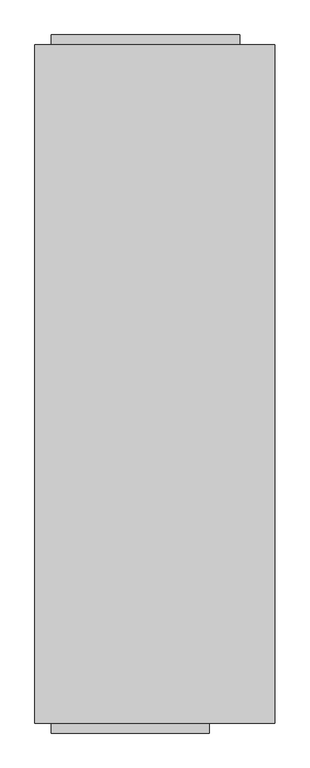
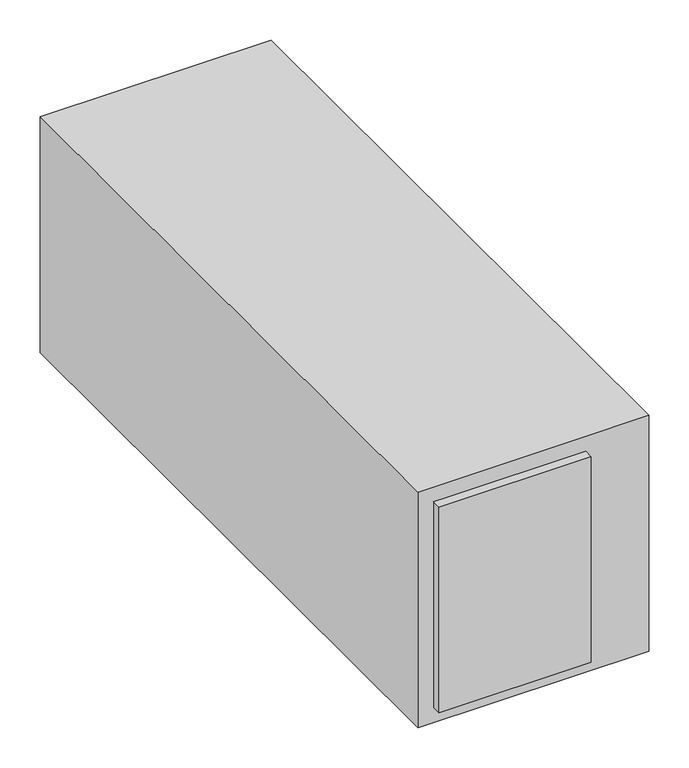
"""IFC4 building model written with IfcOpenShell, lengths in millimetres: proxy geometry, FC-4 & 5 : FC-4 & 5."""

from ifc_helpers import new_model, si_unit, frame, origin, origin_with_axes, place, context, project, spatial, polyline, outline, extrude, source, transform, mapped, element, save


def mechanical_equipment_cb130376(model_context):
    return source(origin(), model_context, "Body", "SweptSolid", [
        extrude(outline(polyline([(-238.76, 783.59), (-238.76, 806.3125809), (196.85, 806.3125809), (196.85, 783.59), (-238.76, 783.59)])), frame((0.0, 0.0, 38.1), z_axis=(0.0, 0.0, 1.0), x_axis=(1.0, 0.0, 0.0)), (0.0, 0.0, 1.0), 520.7),
        extrude(outline(polyline([(125.73, -783.59), (125.73, -806.3125809), (-238.76, -806.3125809), (-238.76, -783.59), (125.73, -783.59)])), frame((0.0, 0.0, 38.1), z_axis=(0.0, 0.0, 1.0), x_axis=(1.0, 0.0, 0.0)), (0.0, 0.0, 1.0), 520.7),
        extrude(outline(polyline([(276.86, -783.59), (-276.86, -783.59), (-276.86, 783.59), (276.86, 783.59), (276.86, -783.59)])), origin_with_axes(), (0.0, 0.0, 1.0), 596.9),
    ])


if __name__ == "__main__":
    model = new_model("IFC4")
    model_context = context("Model", 3, world=origin())
    ifc_project = project(units=[si_unit("LENGTHUNIT", "METRE", prefix="MILLI")], contexts=[model_context])
    site = spatial("IfcSite", under=ifc_project)
    building = spatial("IfcBuilding", under=site)
    placement = place(None, origin())
    mechanical_equipment_shape = mechanical_equipment_cb130376(model_context)
    element("IfcBuildingElementProxy", 1, Name="FC-4 & 5 : FC-4 & 5", ObjectType="FC-4 & 5 : FC-4 & 5", at=placement, inside=building, context=model_context, shape_type="MappedRepresentation", body=[
        mapped(mechanical_equipment_shape, transform((0.0, 0.0, 0.0), x_axis=(1.0, 0.0, 0.0), y_axis=(0.0, 1.0, 0.0), z_axis=(0.0, 0.0, 1.0))),
    ])
    save(model, "model.ifc")
